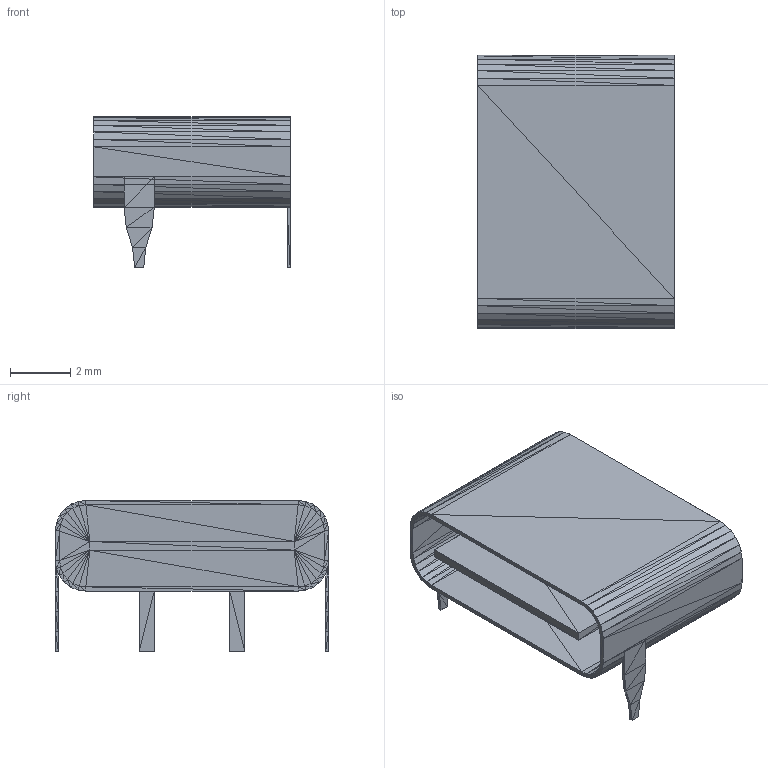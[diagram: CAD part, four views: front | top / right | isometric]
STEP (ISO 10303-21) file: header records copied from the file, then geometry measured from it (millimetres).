
FILE_DESCRIPTION ((), '1');
FILE_NAME ('A:\Website Work\Electronics Production\Input-Output\3Models\USB.step', '2026-03-14T23:45:20', ('Unknown'), ('Unknown'), 'HarmonyWare STEP v2.1.4', 'HarmonyWare Translators', '');
FILE_SCHEMA (('CONFIG_CONTROL_DESIGN'));
Length unit declared in the file: millimetre
Products named in the file (2): shell0
Assembly tree (1 placements, depth 2):
  (unnamed)
    shell0
Bounding box: 6.5 x 9.05 x 5 mm (x, y, z)
Surface area: 322.7 mm2 (no closed solid volume)
Topology: 0 solids, 5 shells, 444 faces, 666 edges, 232 vertices
Faces by surface type: bspline 444
Entity records: 28280 total; most frequent: PRESENTATION_STYLE_ASSIGNMENT 4007, COLOUR_RGB 4007, STYLED_ITEM 4007, CARTESIAN_POINT 3342, POINT_STYLE 3340, PRE_DEFINED_POINT_MARKER_SYMBOL 3340, ORIENTED_EDGE 1332, B_SPLINE_CURVE_WITH_KNOTS 666
